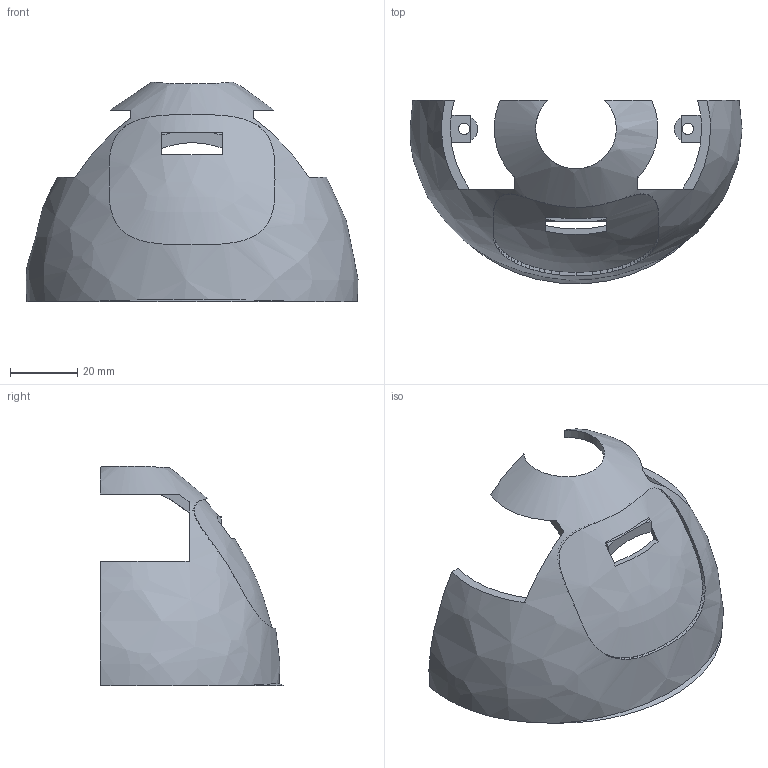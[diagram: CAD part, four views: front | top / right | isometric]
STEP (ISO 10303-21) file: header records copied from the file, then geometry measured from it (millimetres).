
FILE_DESCRIPTION(('FreeCAD Model'),'2;1');
FILE_NAME('Open CASCADE Shape Model','2026-11-20T08:25:33',('FreeCAD'),( 'FreeCAD'),'Open CASCADE STEP processor 7.8','FreeCAD','Unknown');
FILE_SCHEMA(('AUTOMOTIVE_DESIGN { 1 0 10303 214 1 1 1 1 }'));
Length unit declared in the file: millimetre
Products named in the file (1): Open CASCADE STEP translator 7.8 9
Bounding box: 98.9 x 54.59 x 65.46 mm (x, y, z)
Volume: 19572.1 mm3; surface area: 19059.7 mm2
Topology: 1 solids, 1 shells, 139 faces, 430 edges, 292 vertices
Faces by surface type: plane 128, bspline 6, cylinder 5
Full cylindrical faces by diameter (mm): 3.4 x2
Entity records: 10764 total; most frequent: CARTESIAN_POINT 7420, ORIENTED_EDGE 860, DIRECTION 447, EDGE_CURVE 430, VERTEX_POINT 292, B_SPLINE_CURVE_WITH_KNOTS 261, LINE 159, VECTOR 159
